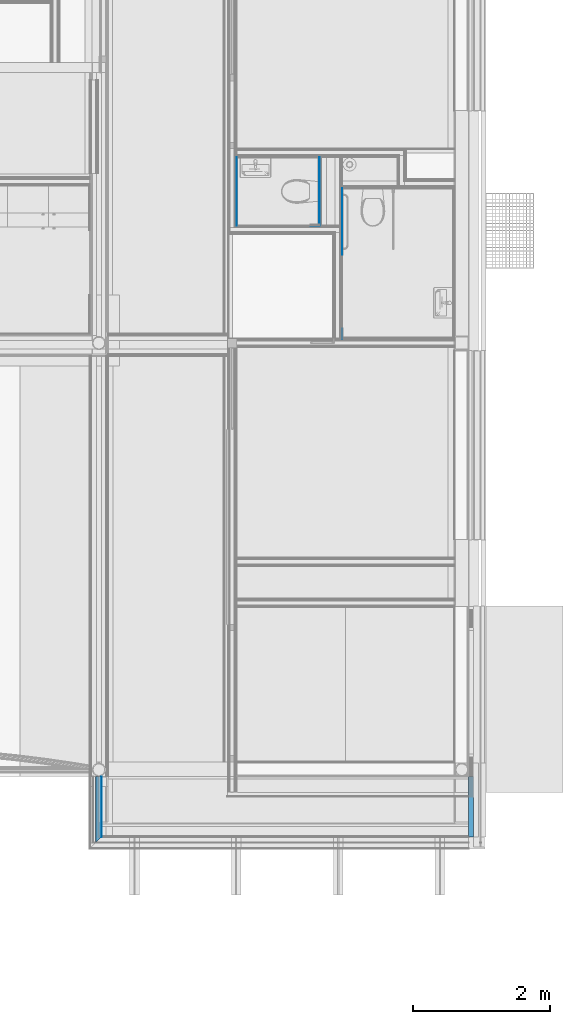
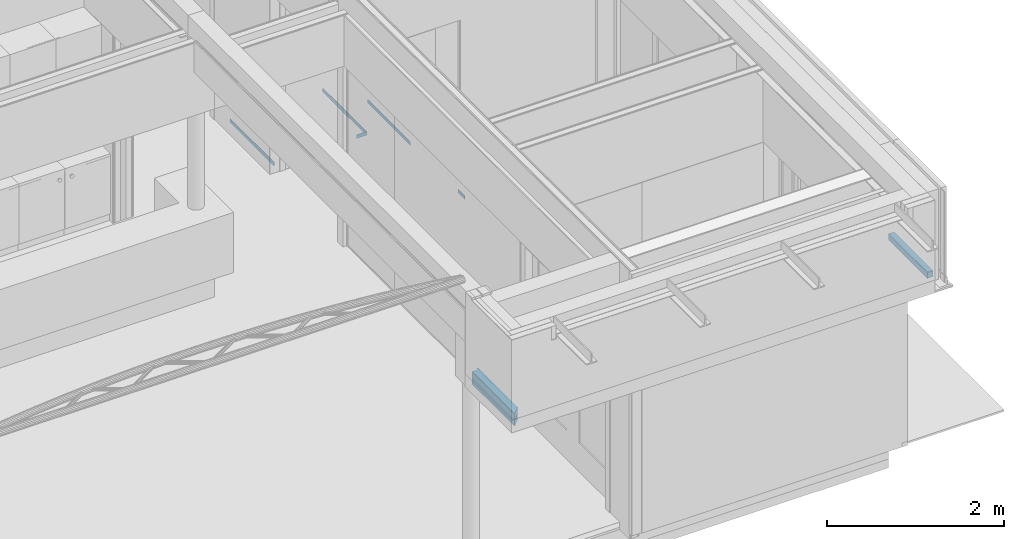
# One storey, part 99 of 165: 11 building element parts, 7 elements without a shape of their own.
"""IFC2X3 building model written with IfcOpenShell, lengths in millimetres."""

from ifc_helpers import new_model, entity, si_unit, converted_unit, derived_unit, money_unit, direction, frame, origin_with_axes, place, context, subcontext, project, spatial, faceted_brep, material, type_object, element, aggregate, save


model = new_model("IFC2X3")

# Units and contexts
model_context = context("Model", 3, precision=0.01, world=origin_with_axes(), true_north=direction((0.0, 1.0)))
body_context = subcontext(model_context, "Body", "Model", "MODEL_VIEW")
ifc_project = project(units=[si_unit("LENGTHUNIT", "METRE", prefix="MILLI"), si_unit("AREAUNIT", "SQUARE_METRE"), si_unit("VOLUMEUNIT", "CUBIC_METRE"), converted_unit("PLANEANGLEUNIT", "DEGREE", entity("IfcPlaneAngleMeasure", 0.0174532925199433), si_unit("PLANEANGLEUNIT", "RADIAN"), dimensions=[0, 0, 0, 0, 0, 0, 0]), money_unit("EUR"), converted_unit("TIMEUNIT", "Year", entity("IfcTimeMeasure", 31556926.0), si_unit("TIMEUNIT", "SECOND"), dimensions=[0, 0, 1, 0, 0, 0, 0]), si_unit("MASSUNIT", "GRAM", prefix="KILO"), si_unit("THERMODYNAMICTEMPERATUREUNIT", "DEGREE_CELSIUS"), si_unit("LUMINOUSINTENSITYUNIT", "LUMEN"), si_unit("ENERGYUNIT", "JOULE", prefix="MEGA"), derived_unit("THERMALCONDUCTANCEUNIT", [(si_unit("POWERUNIT", "WATT"), 1), (si_unit("LENGTHUNIT", "METRE"), -1), (si_unit("THERMODYNAMICTEMPERATUREUNIT", "KELVIN"), -1)]), derived_unit("SPECIFICHEATCAPACITYUNIT", [(si_unit("ENERGYUNIT", "JOULE"), 1), (si_unit("MASSUNIT", "GRAM", prefix="KILO"), -1), (si_unit("THERMODYNAMICTEMPERATUREUNIT", "KELVIN"), -1)]), derived_unit("MASSDENSITYUNIT", [(si_unit("MASSUNIT", "GRAM", prefix="KILO"), 1), (si_unit("VOLUMEUNIT", "CUBIC_METRE"), -1)])], contexts=[model_context])

# Site, building, storey
site_placement = place(None, origin_with_axes())
site = spatial("IfcSite", under=ifc_project, at=site_placement, Name="Site", CompositionType="ELEMENT")
building_placement = place(site_placement, origin_with_axes())
building = spatial("IfcBuilding", under=site, at=building_placement, Name="Naam gebouw", CompositionType="ELEMENT")
storey_placement = place(building_placement, origin_with_axes())
storey = spatial("IfcBuildingStorey", under=building, at=storey_placement, Name="Begane grond", CompositionType="ELEMENT", Elevation=0.0)

# Slab, building element parts
slab_type = type_object("IfcSlabType", Name="45 Geisoleerd buiten plafond 160 176", PredefinedType="NOTDEFINED")
slab_placement = place(storey_placement, frame((29972.00000001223, 4479.999955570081, 2580.000000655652), z_axis=(0.0, 0.0, 1.0), x_axis=(1.0, 0.0, 0.0)))
slab = element("IfcSlab", 1, at=slab_placement, inside=storey, type_object=slab_type, Name="_Vloer-x", PredefinedType="NOTDEFINED")
ifc_material_1 = material(Name="Isolatie - STO EPS")
building_element_part_1_placement = place(slab_placement, origin_with_axes())
building_element_part_1 = element("IfcBuildingElementPart", 2, at=building_element_part_1_placement, material=ifc_material_1, Name="Isolatie - STO EPS", context=body_context, shape_type="Brep", body=[
    faceted_brep([(-72.00000001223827, -879.9999564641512, 172.0000000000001), (0.0, -879.9999564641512, 172.0000000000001), (0.0, 0.0, 172.0000000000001), (-72.00000001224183, 2.575363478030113e-05, 172.0000000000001), (-72.00000019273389, -37.99997598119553, 172.0000000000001), (-72.00000328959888, -689.9999703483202, 172.0000000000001), (-72.00000413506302, -867.9999665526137, 172.0000000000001), (-72.00000413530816, -868.0514631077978, 172.0000000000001), (0.0, -879.9999564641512, 92.00000000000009), (-72.00000001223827, -879.9999564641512, 91.9999932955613), (0.0, 0.0, 92.00000000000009), (-72.00000001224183, 2.575363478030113e-05, 91.99999329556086), (-72.00000001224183, 2.575363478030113e-05, 103.9999877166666), (-72.00000019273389, -37.99997598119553, 103.9999877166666), (-72.00000413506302, -867.9999716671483, 91.9999932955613), (-72.00000413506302, -867.9999716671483, 103.9999916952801), (-72.00000328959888, -689.9999703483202, 103.9999877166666), (-72.00000413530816, -868.0514631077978, 91.9999932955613)], [[[0, 1, 2, 3, 4, 5, 6, 7]], [[8, 1, 0, 9]], [[1, 8, 10, 2]], [[10, 11, 12, 3, 2]], [[12, 13, 4, 3]], [[4, 13, 12, 11, 14, 15, 16, 5]], [[5, 16, 15, 6]], [[6, 15, 14, 17, 7]], [[9, 0, 7, 17]], [[8, 9, 17, 14, 11, 10]]]),
])
ifc_material_2 = material(Name="STO lijmlaag")
building_element_part_2_placement = place(slab_placement, origin_with_axes())
building_element_part_2 = element("IfcBuildingElementPart", 3, at=building_element_part_2_placement, material=ifc_material_2, Name="STO lijmlaag", context=body_context, shape_type="Brep", body=[
    faceted_brep([(-72.00000001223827, -879.9999564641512, 176.0000000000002), (0.0, -879.9999564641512, 176.0000000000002), (0.0, 0.0, 176.0000000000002), (-72.00000001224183, 2.575363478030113e-05, 176.0000000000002), (-72.00000019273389, -37.99997598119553, 176.0000000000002), (-72.00000328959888, -689.9999703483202, 176.0000000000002), (-72.00000413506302, -867.9999665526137, 176.0000000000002), (-72.00000413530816, -868.0514631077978, 176.0000000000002), (0.0, -879.9999564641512, 172.0000000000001), (-72.00000001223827, -879.9999564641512, 172.0000000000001), (0.0, 0.0, 172.0000000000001), (-72.00000001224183, 2.575363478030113e-05, 172.0000000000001), (-72.00000019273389, -37.99997598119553, 172.0000000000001), (-72.00000328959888, -689.9999703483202, 172.0000000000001), (-72.00000413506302, -867.9999665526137, 172.0000000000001), (-72.00000413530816, -868.0514631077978, 172.0000000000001)], [[[0, 1, 2, 3, 4, 5, 6, 7]], [[8, 1, 0, 9]], [[1, 8, 10, 2]], [[10, 11, 3, 2]], [[11, 12, 4, 3]], [[13, 5, 4, 12]], [[6, 5, 13, 14]], [[15, 7, 6, 14]], [[9, 0, 7, 15]], [[8, 9, 15, 14, 13, 12, 11, 10]]]),
])
aggregate(slab, [building_element_part_1, building_element_part_2])

# Beam, building element parts
beam_type = type_object("IfcBeamType", Name="41 Overgang stucwerk wand-plafond 176 x 176", PredefinedType="BEAM")
beam_placement = place(storey_placement, frame((24539.99877127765, 4479.999999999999, 2756.0), z_axis=(0.0, 0.0, 1.0), x_axis=(-1.0, 0.0, 0.0)))
beam = element("IfcBeam", 4, at=beam_placement, inside=storey, type_object=beam_type, Name="_Regenwaterafvoer-x", ObjectType="BEAM")
building_element_part_3_placement = place(beam_placement, origin_with_axes())
building_element_part_3 = element("IfcBuildingElementPart", 5, at=building_element_part_3_placement, material=ifc_material_2, Name="STO lijmlaag", context=body_context, shape_type="Brep", body=[
    faceted_brep([(0.0, 880.0000000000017, -88.00000107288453), (88.00000107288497, 968.0000010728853, -88.00000107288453), (88.00000107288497, 0.0, -88.00000107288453), (0.0, 0.0, -88.00000107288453), (0.0, 880.0000000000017, -84.00000000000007), (83.99999999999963, 964.0000000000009, -84.00000000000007), (83.99999999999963, 964.0000000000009, 0.0), (88.00000107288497, 968.0000010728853, 0.0), (88.00000107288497, 0.0, 0.0), (83.99999999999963, 0.0, 0.0), (83.99999999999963, 0.0, -84.00000000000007), (0.0, 0.0, -84.00000000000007)], [[[0, 1, 2, 3]], [[0, 4, 5, 6, 7, 1]], [[1, 7, 8, 2]], [[3, 2, 8, 9, 10, 11]], [[4, 0, 3, 11]], [[5, 4, 11, 10]], [[6, 5, 10, 9]], [[7, 6, 9, 8]]]),
])
building_element_part_4_placement = place(beam_placement, origin_with_axes())
building_element_part_4 = element("IfcBuildingElementPart", 6, at=building_element_part_4_placement, material=ifc_material_2, Name="STO lijmlaag", context=body_context, shape_type="Brep", body=[
    faceted_brep([(3.999999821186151, 883.9999998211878, 0.0), (0.0, 880.0000000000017, 0.0), (0.0, 0.0, 0.0), (3.999999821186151, 0.0, 0.0), (3.999999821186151, 883.9999998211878, -3.999999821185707), (0.0, 880.0000000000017, -3.999999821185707), (0.0, 0.0, -3.999999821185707), (3.999999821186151, 0.0, -3.999999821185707)], [[[0, 1, 2, 3]], [[0, 4, 5, 1]], [[1, 5, 6, 2]], [[3, 2, 6, 7]], [[4, 0, 3, 7]], [[5, 4, 7, 6]]]),
])
building_element_part_5_placement = place(beam_placement, origin_with_axes())
building_element_part_5 = element("IfcBuildingElementPart", 7, at=building_element_part_5_placement, material=ifc_material_1, Name="Isolatie - STO EPS", context=body_context, shape_type="Brep", body=[
    faceted_brep([(0.0, 880.0000000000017, -88.00000107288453), (0.0, 880.0000000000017, -168.0000000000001), (0.0, 0.0, -168.0000000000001), (0.0, 0.0, -88.00000107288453), (88.00000107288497, 968.0000010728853, -88.00000107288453), (88.00000107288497, 968.0000010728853, -168.0000000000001), (88.00000107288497, 0.0, -168.0000000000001), (88.00000107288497, 0.0, -88.00000107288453)], [[[0, 1, 2, 3]], [[0, 4, 5, 1]], [[1, 5, 6, 2]], [[3, 2, 6, 7]], [[4, 0, 3, 7]], [[5, 4, 7, 6]]]),
])
building_element_part_6_placement = place(beam_placement, origin_with_axes())
building_element_part_6 = element("IfcBuildingElementPart", 8, at=building_element_part_6_placement, material=ifc_material_1, Name="Isolatie - STO EPS", context=body_context, shape_type="Brep", body=[
    faceted_brep([(0.0, 880.0000000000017, -3.999999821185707), (0.0, 880.0000000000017, -84.00000000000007), (0.0, 0.0, -84.00000000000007), (0.0, 0.0, -3.999999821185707), (3.999999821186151, 883.9999998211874, -3.999999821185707), (3.999999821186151, 883.9999998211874, 0.0), (83.99999999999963, 964.0000000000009, 0.0), (83.99999999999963, 964.0000000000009, -84.00000000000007), (83.99999999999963, 0.0, -84.00000000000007), (83.99999999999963, 0.0, 0.0), (3.999999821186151, 0.0, 0.0), (3.999999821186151, 0.0, -3.999999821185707)], [[[0, 1, 2, 3]], [[0, 4, 5, 6, 7, 1]], [[1, 7, 8, 2]], [[3, 2, 8, 9, 10, 11]], [[4, 0, 3, 11]], [[5, 4, 11, 10]], [[6, 5, 10, 9]], [[7, 6, 9, 8]]]),
])
aggregate(beam, [building_element_part_3, building_element_part_4, building_element_part_5, building_element_part_6])

# Proxy, building element part
building_element_proxy_type = type_object("IfcBuildingElementProxyType", Name="42 Tegelwerk 2600+ 12 x 2600", PredefinedType="NOTDEFINED")
proxy_1_placement = place(storey_placement, frame((28069.99985273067, 11022.50012312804, 0.0), z_axis=(0.0, 0.0, 1.0), x_axis=(6.618815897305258e-07, -0.999999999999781, 0.0)))
proxy_1 = element("IfcBuildingElementProxy", 9, at=proxy_1_placement, inside=storey, type_object=building_element_proxy_type, Name="_Wand-x")
ifc_material_3 = material(Name="48 vloeivloer Bolidt")
building_element_part_7_placement = place(proxy_1_placement, origin_with_axes())
building_element_part_7 = element("IfcBuildingElementPart", 10, at=building_element_part_7_placement, material=ifc_material_3, Name="48 vloeivloer Bolidt", context=body_context, shape_type="Brep", body=[
    faceted_brep([(150.0000067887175, -19.99998360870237, 50.00000596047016), (150.0000100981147, -14.99999850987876, 50.00000596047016), (0.0, -14.99999850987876, 50.00000596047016), (0.0, -19.99998360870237, 50.00000596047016), (150.0000100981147, -14.99999850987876, 0.0), (150.0000067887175, -19.99998360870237, 0.0), (0.0, -14.99999850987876, 0.0), (0.0, -19.99998360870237, 0.0)], [[[0, 1, 2, 3]], [[4, 1, 0, 5]], [[1, 4, 6, 2]], [[2, 6, 7, 3]], [[5, 0, 3, 7]], [[4, 5, 7, 6]]]),
])
aggregate(proxy_1, [building_element_part_7])

proxy_2_placement = place(storey_placement, frame((28069.99850745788, 13054.99778100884, 0.0), z_axis=(0.0, 0.0, 1.0), x_axis=(6.618815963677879e-07, -0.999999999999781, 0.0)))
proxy_2 = element("IfcBuildingElementProxy", 11, at=proxy_2_placement, inside=storey, type_object=building_element_proxy_type, Name="_Wand-x")
building_element_part_8_placement = place(proxy_2_placement, origin_with_axes())
building_element_part_8 = element("IfcBuildingElementPart", 12, at=building_element_part_8_placement, material=ifc_material_3, Name="48 vloeivloer Bolidt", context=body_context, shape_type="Brep", body=[
    faceted_brep([(-15.00000900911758, -14.99999850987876, 0.0), (-15.00000900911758, -14.99999850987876, 50.00000596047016), (952.4976578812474, -14.99999850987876, 50.00000596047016), (952.4976578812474, -14.99999850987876, 0.0), (-15.00001231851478, -19.99998360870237, 50.00000596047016), (-15.00001231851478, -19.99998360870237, 0.0), (952.4976578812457, -19.99998360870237, 50.00000596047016), (952.4976578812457, -19.99998360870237, 0.0)], [[[0, 1, 2, 3]], [[4, 1, 0, 5]], [[1, 4, 6, 2]], [[6, 7, 3, 2]], [[5, 0, 3, 7]], [[4, 5, 7, 6]]]),
])
aggregate(proxy_2, [building_element_part_8])

proxy_3_placement = place(storey_placement, frame((27590.99998676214, 12544.99900471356, 0.0), z_axis=(0.0, 0.0, 1.0), x_axis=(0.999999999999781, 6.618815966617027e-07, 0.0)))
proxy_3 = element("IfcBuildingElementProxy", 13, at=proxy_3_placement, inside=storey, type_object=building_element_proxy_type, Name="_Wand-x")
building_element_part_9_placement = place(proxy_3_placement, origin_with_axes())
building_element_part_9 = element("IfcBuildingElementPart", 14, at=building_element_part_9_placement, material=ifc_material_3, Name="48 vloeivloer Bolidt", context=body_context, shape_type="Brep", body=[
    faceted_brep([(133.9981574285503, -20.00007229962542, 50.00000596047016), (133.9981607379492, -15.00008720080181, 50.00000596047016), (-9.928221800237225e-06, -14.99999850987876, 50.00000596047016), (-1.323762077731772e-05, -19.99998360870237, 50.00000596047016), (133.9981607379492, -15.00008720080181, 0.0), (133.9981574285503, -20.00007229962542, 0.0), (-9.928221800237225e-06, -14.99999850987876, 0.0), (-1.323762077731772e-05, -19.99998360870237, 0.0)], [[[0, 1, 2, 3]], [[4, 1, 0, 5]], [[1, 4, 6, 2]], [[2, 6, 7, 3]], [[5, 0, 3, 7]], [[4, 5, 7, 6]]]),
])
aggregate(proxy_3, [building_element_part_9])

proxy_4_placement = place(storey_placement, frame((27704.99814997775, 12544.99908016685, 0.0), z_axis=(0.0, 0.0, 1.0), x_axis=(4.734246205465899e-08, 0.9999999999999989, 0.0)))
proxy_4 = element("IfcBuildingElementProxy", 15, at=proxy_4_placement, inside=storey, type_object=building_element_proxy_type, Name="_Wand-x")
building_element_part_10_placement = place(proxy_4_placement, origin_with_axes())
building_element_part_10 = element("IfcBuildingElementPart", 16, at=building_element_part_10_placement, material=ifc_material_3, Name="48 vloeivloer Bolidt", context=body_context, shape_type="Brep", body=[
    faceted_brep([(-15.00007325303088, -14.9999992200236, 50.00000596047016), (-15.00007301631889, -19.9999843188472, 50.00000596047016), (979.9989872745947, -19.99993721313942, 50.00000596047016), (979.9989858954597, -14.99995211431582, 50.00000596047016), (-15.00007301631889, -19.9999843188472, 0.0), (-15.00007325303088, -14.9999992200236, 0.0), (979.9989872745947, -19.99993721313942, 0.0), (979.9989858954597, -14.99995211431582, 0.0)], [[[0, 1, 2, 3]], [[4, 1, 0, 5]], [[1, 4, 6, 2]], [[3, 2, 6, 7]], [[5, 0, 3, 7]], [[4, 5, 7, 6]]]),
])
aggregate(proxy_4, [building_element_part_10])

proxy_5_placement = place(storey_placement, frame((26531.00000000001, 13504.99778623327, 0.0), z_axis=(0.0, 0.0, 1.0), x_axis=(0.0, -1.0, 0.0)))
proxy_5 = element("IfcBuildingElementProxy", 17, at=proxy_5_placement, inside=storey, type_object=building_element_proxy_type, Name="_Wand-x")
building_element_part_11_placement = place(proxy_5_placement, origin_with_axes())
building_element_part_11 = element("IfcBuildingElementPart", 18, at=building_element_part_11_placement, material=ifc_material_3, Name="48 vloeivloer Bolidt", context=body_context, shape_type="Brep", body=[
    faceted_brep([(-14.99999508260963, -14.99999850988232, 0.0), (-14.99999508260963, -14.99999850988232, 50.00000596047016), (979.9994963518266, -14.99999850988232, 50.00000596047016), (979.9994963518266, -14.99999850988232, 0.0), (-14.99999394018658, -19.99998360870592, 50.00000596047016), (-14.99999394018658, -19.99998360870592, 0.0), (979.9994963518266, -19.99998360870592, 50.00000596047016), (979.9994963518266, -19.99998360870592, 0.0)], [[[0, 1, 2, 3]], [[4, 1, 0, 5]], [[1, 4, 6, 2]], [[6, 7, 3, 2]], [[5, 0, 3, 7]], [[4, 5, 7, 6]]]),
])
aggregate(proxy_5, [building_element_part_11])

save(model, "model.ifc")
